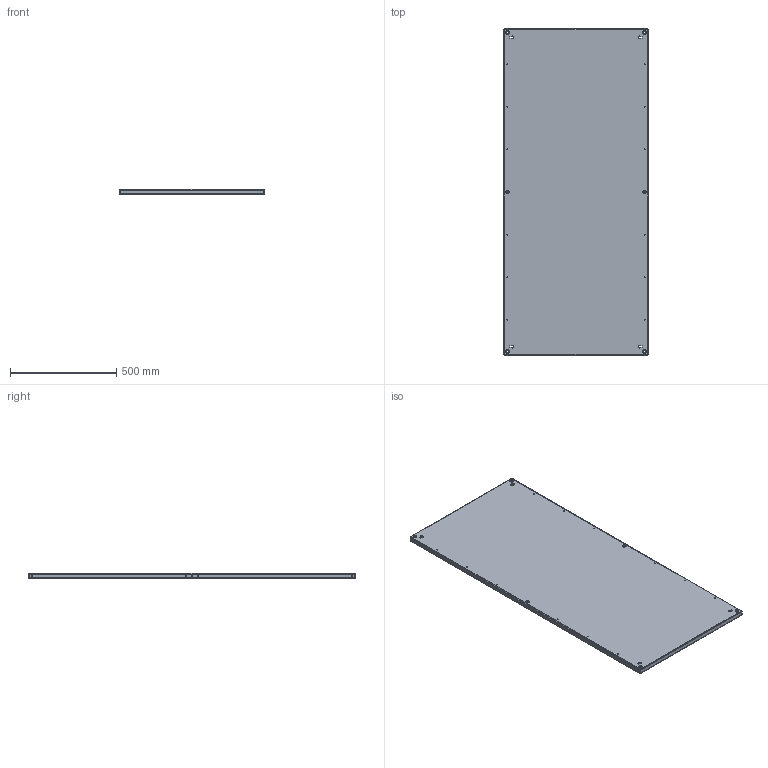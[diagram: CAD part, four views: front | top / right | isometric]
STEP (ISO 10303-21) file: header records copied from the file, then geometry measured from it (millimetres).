
FILE_DESCRIPTION(('STEP AP203'), '1');
FILE_NAME('Ïàíåëü ìîíòàæíàÿ Â1600õØ800 ìì OptiBox M 421770 ÊÝÀÇ', '', ('UNSPECIFIED'), ('UNSPECIFIED'), 'C3D Converter', 'C3D Toolkit', '');
FILE_SCHEMA(('CONFIG_CONTROL_DESIGN'));
Length unit declared in the file: millimetre
Bounding box: 678 x 1533 x 25 mm (x, y, z)
Volume: 2415410.4 mm3; surface area: 2427045.7 mm2
Topology: 1 solids, 1 shells, 128 faces, 314 edges, 188 vertices
Faces by surface type: cylinder 58, plane 54, bspline 16
Full cylindrical faces by diameter (mm): 4.6 x24, 7.3 x2, 9 x6, 18 x6
Entity records: 6032 total; most frequent: CARTESIAN_POINT 3037, ORIENTED_EDGE 552, DIRECTION 550, EDGE_CURVE 276, EDGE_LOOP 250, AXIS2_PLACEMENT_3D 197, VERTEX_POINT 188, FACE_BOUND 174
